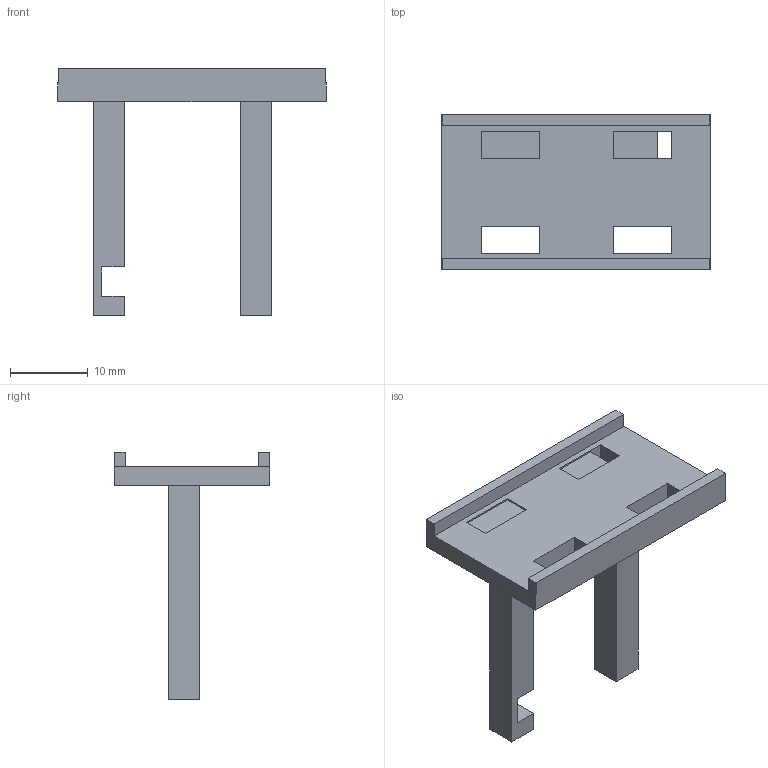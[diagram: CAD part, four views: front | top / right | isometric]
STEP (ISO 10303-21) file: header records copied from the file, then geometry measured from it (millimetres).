
FILE_DESCRIPTION(('Open CASCADE Model'),'2;1');
FILE_NAME('Open CASCADE Shape Model','2026-11-20T15:36:04',('Author'),( 'Open CASCADE'),'Open CASCADE STEP processor 8.0','Open CASCADE 8.0' ,'Unknown');
FILE_SCHEMA(('AUTOMOTIVE_DESIGN { 1 0 10303 214 1 1 1 1 }'));
Length unit declared in the file: millimetre
Products named in the file (1): Open CASCADE STEP translator 8.0 7
Bounding box: 34.6 x 20 x 31.9 mm (x, y, z)
Volume: 2523.8 mm3; surface area: 2826.6 mm2
Topology: 1 solids, 1 shells, 51 faces, 138 edges, 92 vertices
Faces by surface type: plane 51
Entity records: 3266 total; most frequent: CARTESIAN_POINT 680, DIRECTION 396, LINE 292, VECTOR 292, ORIENTED_EDGE 276, PCURVE 276, DEFINITIONAL_REPRESENTATION 276, EDGE_CURVE 138
